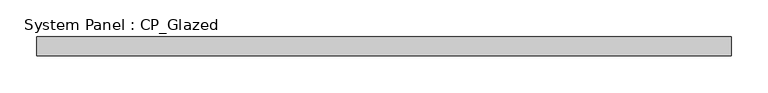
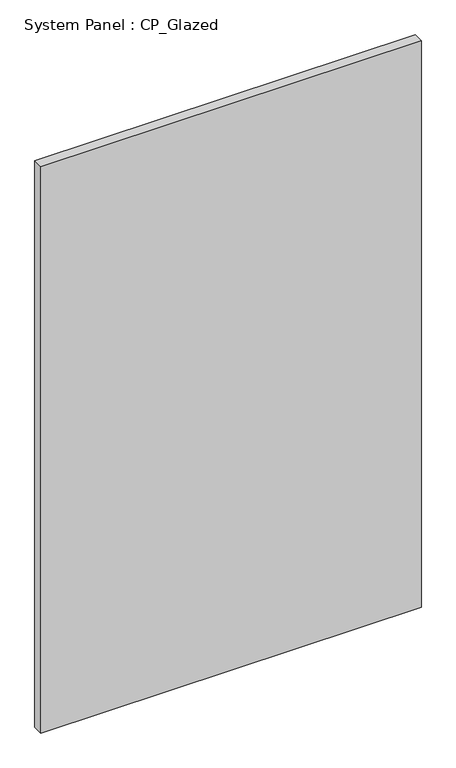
"""IFC4 building model written with IfcOpenShell, lengths in millimetres: plate geometry, System Panel : CP_Glazed."""

from ifc_helpers import new_model, si_unit, origin, origin_with_axes, place, context, project, spatial, polyline, outline, extrude, source, transform, mapped, element, save


def system_panel_cp_glazed_e6a7d486(model_context):
    return source(origin(), model_context, "Body", "SweptSolid", [
        extrude(outline(polyline([(470.4291667, 19.05), (-470.4291667, 19.05), (-470.4291667, 44.45), (470.4291667, 44.45), (470.4291667, 19.05)])), origin_with_axes(), (0.0, 0.0, 1.0), 1479.55),
    ])


if __name__ == "__main__":
    model = new_model("IFC4")
    model_context = context("Model", 3, world=origin())
    ifc_project = project(units=[si_unit("LENGTHUNIT", "METRE", prefix="MILLI")], contexts=[model_context])
    site = spatial("IfcSite", under=ifc_project)
    building = spatial("IfcBuilding", under=site)
    placement = place(None, origin())
    system_panel_cp_glazed_shape = system_panel_cp_glazed_e6a7d486(model_context)
    element("IfcPlate", 1, ObjectType="System Panel : CP_Glazed", at=placement, inside=building, context=model_context, shape_type="MappedRepresentation", body=[
        mapped(system_panel_cp_glazed_shape, transform((0.0, 0.0, 0.0), x_axis=(1.0, 0.0, 0.0), y_axis=(0.0, 1.0, 0.0), z_axis=(0.0, 0.0, 1.0))),
    ])
    save(model, "model.ifc")
